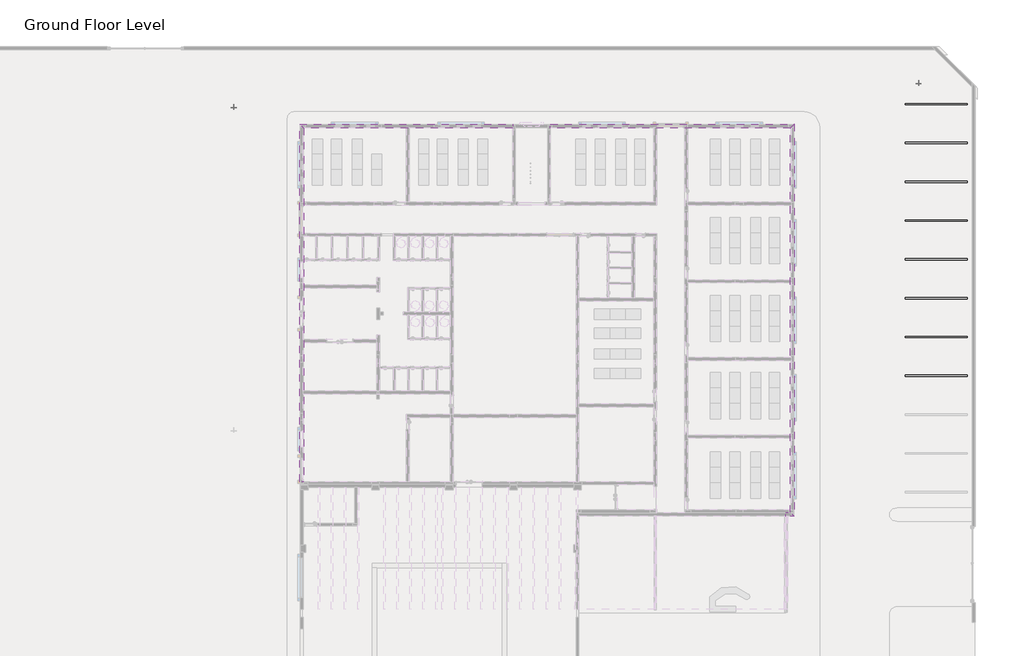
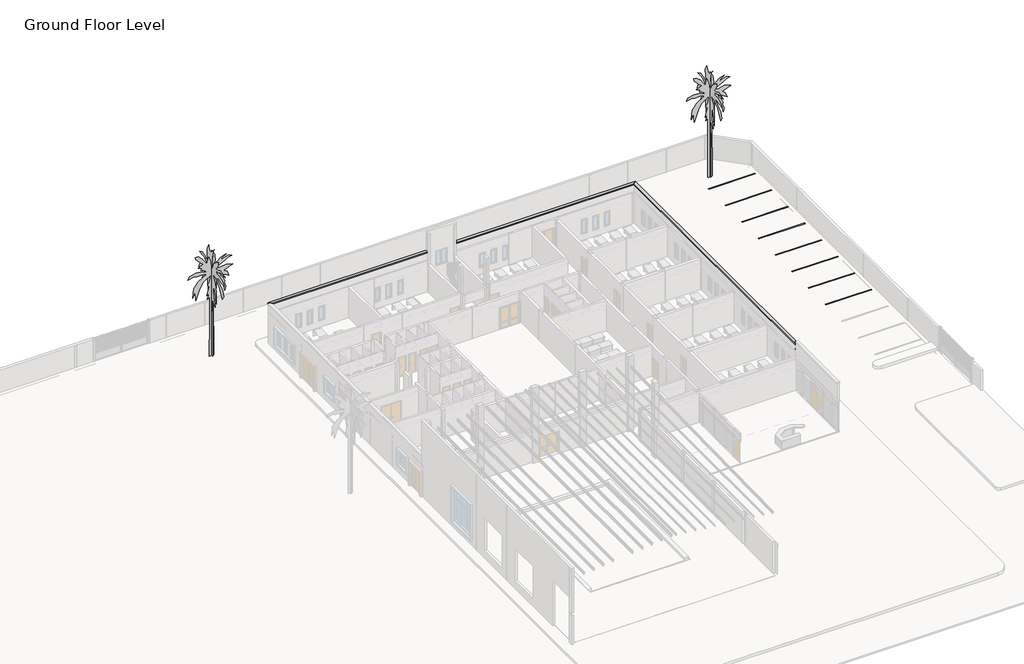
# One storey, part 23 of 23: 21 proxies.
"""IFC4 building model written with IfcOpenShell, lengths in millimetres."""

import ifcopenshell
import ifcopenshell.guid

model = None  # the IFC model being written
_history = None  # IfcOwnerHistory: only IFC2X3 demands one
_inside = {}  # id of a spatial element -> (the spatial element, [elements in it])
_under = {}  # id of a project, library or spatial element -> (it, [spatial elements below it])
_declared = {}  # id of a project -> (the project, [libraries it declares])
_typed = {}  # id of a type object -> (the type object, [elements of that type])
_made_of = {}  # id of a material, layer set ... -> (it, [elements and type objects made of it])


def new_model(schema):
    """Start an empty IFC model of exactly this schema.

    Asked for "IFC4X3", IfcOpenShell would pick the latest addendum, in which some entities
    have other attributes; the version numbers below select the first issue.
    IFC2X3 requires an IfcOwnerHistory on every rooted entity: one is made here for all.
    """
    global model, _history
    if schema == "IFC4X3":
        model = ifcopenshell.file(schema_version=(4, 3, 0, 0))
    else:
        model = ifcopenshell.file(schema=schema)
    _inside.clear()
    _under.clear()
    _declared.clear()
    _typed.clear()
    _made_of.clear()
    _history = None
    if model.schema == "IFC2X3":
        org = make("IfcOrganization", Name="unknown")
        user = make(
            "IfcPersonAndOrganization",
            ThePerson=make("IfcPerson", FamilyName="unknown"),
            TheOrganization=org,
        )
        app = make(
            "IfcApplication",
            ApplicationDeveloper=org,
            Version="unknown",
            ApplicationFullName="unknown",
            ApplicationIdentifier="unknown",
        )
        _history = make(
            "IfcOwnerHistory",
            OwningUser=user,
            OwningApplication=app,
            ChangeAction="ADDED",
            CreationDate=0,
        )
    return model


def make(cls, **values):
    """One entity of the class cls with the attributes given. An attribute that is None is left unset."""
    return model.create_entity(
        cls, **{name: value for name, value in values.items() if value is not None}
    )


def rooted(cls, **values):
    """An entity with a GlobalId (a new one), such as an element, a storey or a relation."""
    return make(cls, GlobalId=ifcopenshell.guid.new(), OwnerHistory=_history, **values)


def si_unit(unit_type, name, prefix=None):
    """IfcSIUnit, for example si_unit("LENGTHUNIT", "METRE", prefix="MILLI")."""
    return make("IfcSIUnit", UnitType=unit_type, Prefix=prefix, Name=name)


def assignment(units):
    """IfcUnitAssignment: the units of a project."""
    return None if units is None else make("IfcUnitAssignment", Units=units)


def point(xyz):
    """IfcCartesianPoint."""
    return None if xyz is None else make("IfcCartesianPoint", Coordinates=xyz)


def direction(xyz):
    """IfcDirection."""
    return None if xyz is None else make("IfcDirection", DirectionRatios=xyz)


def frame(location, z_axis=None, x_axis=None):
    """IfcAxis2Placement3D, a coordinate frame: its origin and axes. An axis left out is left unset."""
    return make(
        "IfcAxis2Placement3D",
        Location=point(location),
        Axis=direction(z_axis),
        RefDirection=direction(x_axis),
    )


def origin():
    """The frame at (0, 0, 0) with its axes left unset."""
    return frame((0.0, 0.0, 0.0))


def origin_with_axes():
    """The frame at (0, 0, 0) with the z axis (0, 0, 1) and the x axis (1, 0, 0) written out."""
    return frame((0.0, 0.0, 0.0), z_axis=(0.0, 0.0, 1.0), x_axis=(1.0, 0.0, 0.0))


def place(relative_to, where):
    """IfcLocalPlacement: puts the frame where relative to a parent placement (None: the world)."""
    return make(
        "IfcLocalPlacement", PlacementRelTo=relative_to, RelativePlacement=where
    )


def context(
    kind, dimensions, precision=None, world=None, true_north=None, identifier=None
):
    """IfcGeometricRepresentationContext, for example the 3D "Model" context."""
    return make(
        "IfcGeometricRepresentationContext",
        ContextIdentifier=identifier,
        ContextType=kind,
        CoordinateSpaceDimension=dimensions,
        Precision=precision,
        WorldCoordinateSystem=world,
        TrueNorth=true_north,
    )


def project(units=None, contexts=None):
    """IfcProject with its units and contexts."""
    return rooted(
        "IfcProject",
        Name="project",
        RepresentationContexts=contexts,
        UnitsInContext=assignment(units),
    )


def spatial(cls, under=None, at=None, **own):
    """A site, building, storey or space (cls), placed at a placement, below another one or the project."""
    s = rooted(cls, ObjectPlacement=at, **own)
    if under is not None:
        _under.setdefault(under.id(), (under, []))[1].append(s)
    return s


def polyline(points):
    """IfcPolyline through the points."""
    return make("IfcPolyline", Points=[point(p) for p in points])


def point_list(points):
    """IfcCartesianPointList2D or 3D."""
    cls = (
        "IfcCartesianPointList2D" if len(points[0]) == 2 else "IfcCartesianPointList3D"
    )
    return make(cls, CoordList=points)


def outline(outer, holes=None, kind="AREA"):
    """IfcArbitraryClosedProfileDef: a profile drawn as a closed curve; with holes, ...WithVoids."""
    if holes is None:
        return make("IfcArbitraryClosedProfileDef", ProfileType=kind, OuterCurve=outer)
    return make(
        "IfcArbitraryProfileDefWithVoids",
        ProfileType=kind,
        OuterCurve=outer,
        InnerCurves=holes,
    )


def extrude(swept, where, along, depth):
    """IfcExtrudedAreaSolid: the profile swept, set in the frame where, extruded along a direction by depth."""
    return make(
        "IfcExtrudedAreaSolid",
        SweptArea=swept,
        Position=where,
        ExtrudedDirection=direction(along),
        Depth=depth,
    )


def triangles(points, corners, closed=None, point_numbers=None):
    """IfcTriangulatedFaceSet: each triangle names its three corners, points numbered from 1."""
    return make(
        "IfcTriangulatedFaceSet",
        Coordinates=point_list(points),
        Closed=closed,
        CoordIndex=corners,
        PnIndex=point_numbers,
    )


def shape(context_of_items, identifier, shape_type, items):
    """IfcShapeRepresentation: the items that make up one representation, for example the "Body"."""
    return make(
        "IfcShapeRepresentation",
        ContextOfItems=context_of_items,
        RepresentationIdentifier=identifier,
        RepresentationType=shape_type,
        Items=items,
    )


def source(mapping_origin, context_of_items, identifier, shape_type, items):
    """IfcRepresentationMap: a shape defined once, which mapped items show again and again."""
    return make(
        "IfcRepresentationMap",
        MappingOrigin=mapping_origin,
        MappedRepresentation=shape(context_of_items, identifier, shape_type, items),
    )


def transform(
    local_origin,
    x_axis=None,
    y_axis=None,
    z_axis=None,
    scale=None,
    scale2=None,
    scale3=None,
    uniform=True,
):
    """IfcCartesianTransformationOperator3D, or its non-uniform kind. x_axis, y_axis, z_axis: its Axis1, 2, 3."""
    if uniform:
        return make(
            "IfcCartesianTransformationOperator3D",
            Axis1=direction(x_axis),
            Axis2=direction(y_axis),
            LocalOrigin=point(local_origin),
            Scale=scale,
            Axis3=direction(z_axis),
        )
    return make(
        "IfcCartesianTransformationOperator3DnonUniform",
        Axis1=direction(x_axis),
        Axis2=direction(y_axis),
        LocalOrigin=point(local_origin),
        Scale=scale,
        Axis3=direction(z_axis),
        Scale2=scale2,
        Scale3=scale3,
    )


def mapped(mapping_source, mapping_target):
    """IfcMappedItem: shows the shape of a source again, moved by a transform."""
    return make(
        "IfcMappedItem", MappingSource=mapping_source, MappingTarget=mapping_target
    )


def made_of(thing, what):
    """Note that an element or type object is made of a material, layer set ...; save() writes the relation."""
    if what is not None:
        _made_of.setdefault(what.id(), (what, []))[1].append(thing)
    return thing


def element(
    cls,
    number,
    at=None,
    inside=None,
    cuts=None,
    type_object=None,
    material=None,
    context=None,
    identifier="Body",
    shape_type=None,
    held_by="IfcProductDefinitionShape",
    body=None,
    shapes=None,
    **own,
):
    """One element of the class cls, such as IfcWall. Its Tag is "e" and its number.

    at: its placement. inside: the storey or other place that contains it. cuts: it is an
    opening in that element (IfcRelVoidsElement). A single representation is given by context,
    identifier, shape_type and body (its items); several are given by shapes. held_by: the class
    of the entity that holds the representations. save() writes the other relations.
    """
    e = rooted(cls, Tag="e%d" % number, ObjectPlacement=at, **own)
    if body is not None:
        shapes = [shape(context, identifier, shape_type, body)]
    if shapes is not None:
        e.Representation = make(held_by, Representations=shapes)
    if inside is not None:
        _inside.setdefault(inside.id(), (inside, []))[1].append(e)
    if cuts is not None:
        rooted(
            "IfcRelVoidsElement", RelatingBuildingElement=cuts, RelatedOpeningElement=e
        )
    if type_object is not None:
        _typed.setdefault(type_object.id(), (type_object, []))[1].append(e)
    return made_of(e, material)


def aggregate(whole, parts):
    """IfcRelAggregates: a whole, such as a stair, and the parts it consists of."""
    return rooted("IfcRelAggregates", RelatingObject=whole, RelatedObjects=parts)


def save(model, path):
    """Write the relations noted so far, then the file.

    IfcRelAggregates (storeys below a building ...), IfcRelContainedInSpatialStructure (elements
    in a storey), IfcRelDefinesByType, IfcRelAssociatesMaterial and IfcRelDeclares: one each for
    every whole, place, type object, material and project.
    """
    for whole, parts in _under.values():
        aggregate(whole, parts)
    for where, things in _inside.values():
        rooted(
            "IfcRelContainedInSpatialStructure",
            RelatedElements=things,
            RelatingStructure=where,
        )
    for kind, things in _typed.values():
        rooted("IfcRelDefinesByType", RelatedObjects=things, RelatingType=kind)
    for what, things in _made_of.values():
        rooted("IfcRelAssociatesMaterial", RelatedObjects=things, RelatingMaterial=what)
    for by, libraries in _declared.values():
        rooted("IfcRelDeclares", RelatingContext=by, RelatedDefinitions=libraries)
    model.write(path)


def m_parking_space_4800_x_2400mm_90_deg_2b7ae786(model_context):
    return source(origin(), model_context, "Body", "SweptSolid", [
        extrude(outline(polyline([(-50.8, 0.0), (50.8, 0.0), (50.8, -4800.0), (-50.8, -4800.0), (-50.8, 0.0)])), origin_with_axes(), (0.0, 0.0, 1.0), 3.175),
    ])


def m_rpc_plants_cuban_royal_palm_0febebf2(model_context):
    return source(origin(), model_context, "Body", "Tessellation", [
        triangles([(-85.641911, -0.0275448, 0.0014862), (-236.2865584, -0.0275582, 0.0014928), (-206.1574018, -0.0282491, 3928.5799713), (-206.1570022, -0.0287286, 6610.0331589), (-447.1875661, -0.0286857, 6429.2738434), (-326.6736649, -0.028761, 6820.9534241), (-356.8016587, -0.028792, 7001.7133209), (-507.4475143, -0.0287531, 6820.9534241), (-326.6732652, -0.0288795, 7483.7926163), (-236.2861588, -0.028932, 7754.9522278), (-417.0595722, -0.0289672, 7995.9921661), (-176.0286268, -0.0290424, 8357.5119598), (-115.770686, -0.0291581, 8990.2308975), (-899.1230982, -0.0290269, 8447.9116745), (-1230.5388428, -0.0289101, 7875.472197), (-1652.346381, -0.0286815, 6700.4334549), (-1712.6022961, -0.0288621, 7724.8325546), (-1953.6340954, -0.0287384, 7092.1130356), (-1863.2502228, -0.0289201, 8086.351767), (-1381.1866241, -0.0290489, 8688.9516129), (-537.5754719, -0.0291774, 9201.1505814), (-929.2510557, -0.0291819, 9321.6705505), (-1561.9584389, -0.0291488, 9291.5107635), (-1833.1181957, -0.0291585, 9412.0307327), (-2465.8256516, -0.0291039, 9261.3910904), (-2285.0536915, -0.0291657, 9562.6703751), (-1652.346381, -0.0292203, 9713.3501312), (-959.3790133, -0.0292344, 9622.9504166), (-507.4475143, -0.0292165, 9412.0307327), (-597.8354201, -0.0292394, 9562.6703751), (-959.3790133, -0.0292667, 9803.7097321), (-1140.1548975, -0.0292696, 9863.9897736), (-989.5110403, -0.0293031, 10014.6305786), (-1411.3145817, -0.0293116, 10165.2702209), (-868.9951406, -0.0293838, 10436.4292511), (-1170.282855, -0.0294191, 10707.589444), (-1652.346381, -0.0294843, 11189.6693207), (-1682.4743385, -0.0295314, 11460.8283508), (-1411.3145817, -0.0295379, 11430.6685638), (-959.3790133, -0.0294876, 11038.9889832), (-718.3472866, -0.0294281, 10647.3094025), (-447.1875661, -0.0293861, 10346.0301178), (-447.1875661, -0.0294292, 10587.0700562), (-326.6732652, -0.0295099, 11008.8687286), (-115.770686, -0.0294275, 10496.6697601), (-25.3840156, -0.0293022, 9773.5906403), (125.2606773, -0.0294488, 10556.9498016), (155.3898429, -0.0295471, 11099.2690247), (4.7451552, -0.0296429, 11671.7085022), (306.0344813, -0.0295537, 11099.2690247), (396.4216241, -0.0294391, 10436.4292511), (125.2606773, -0.0293087, 9773.5906403), (577.1954372, -0.0294201, 10285.7896088), (968.8710211, -0.0294911, 10587.0700562), (1511.1904621, -0.0295417, 10737.7096985), (1119.5148783, -0.0294869, 10526.8295471), (968.8710211, -0.0294372, 10285.7896088), (1240.0307053, -0.0294706, 10406.3101593), (1752.2222614, -0.0295199, 10556.9498016), (2083.6420029, -0.0295075, 10406.3101593), (1691.9663464, -0.0294688, 10285.7896088), (1420.8065895, -0.0294247, 10104.9901794), (547.0674434, -0.029311, 9683.1903442), (727.8392944, -0.0292866, 9502.4304474), (968.8710211, -0.0293025, 9532.5507019), (1511.1904621, -0.0293424, 9622.9504166), (2174.0297997, -0.0293337, 9412.0307327), (1601.5784042, -0.0292709, 9201.1505814), (1270.1588081, -0.0292295, 9050.510939), (1601.5784042, -0.0292009, 8809.4710007), (1782.350219, -0.0291172, 8297.2720322), (1420.8065895, -0.0291445, 8538.3113892), (1209.9028204, -0.0291515, 8628.6715714), (968.8710211, -0.0291948, 8929.9909698), (968.8710211, -0.0291786, 8839.5912552), (818.2271639, -0.0291613, 8779.3513275), (1029.1270088, -0.0291489, 8658.8313583), (878.4831516, -0.0291316, 8598.5513168), (1179.7748629, -0.0290855, 8267.1517776), (1179.7748629, -0.0290693, 8176.752063), (1360.5466049, -0.0290179, 7845.3519424), (1300.2906898, -0.0289884, 7694.7123001), (1481.0625046, -0.0289047, 7182.5127502), (1360.5466049, -0.0288294, 6790.8331696), (1179.7748629, -0.0289777, 7664.5525131), (1029.1270088, -0.0290519, 8116.5121353), (757.967252, -0.0291209, 8568.4316437), (486.8075315, -0.0291306, 8688.9516129), (456.6795376, -0.0290215, 8086.351767), (456.6795376, -0.028903, 7423.5526886), (306.0344813, -0.0287671, 6700.4334549), (185.518618, -0.0287349, 6549.7932312), (215.6473931, -0.0275672, 0.001473), (-0.0058394, 141.1002628, 0.0007795), (-0.00584, 257.690539, 0.0008003), (-0.0058394, 257.690539, 2876.8171349), (-0.0058362, 228.5433719, 6753.4331268), (-0.0058387, 345.1328579, 6578.553685), (-0.0058357, 636.6073631, 5966.4340714), (-0.005838, 636.6073631, 6695.1535446), (-0.0058375, 724.0512989, 7919.3520767), (-0.0058398, 607.4593966, 8764.6312958), (-0.0058411, 840.639168, 8502.2717285), (-0.0058374, 1248.7067745, 7656.9925095), (-0.0058368, 1715.0662445, 7074.0728577), (-0.0058401, 2064.8339939, 6520.2735214), (-0.005838, 1656.7703842, 7627.8721939), (-0.0058384, 1394.4426464, 8269.1115417), (-0.0058384, 811.4911652, 8852.0713074), (-0.0058409, 1073.818903, 8793.75103), (-0.0058383, 1423.5905766, 8764.6312958), (-0.0058388, 1744.21432, 8822.9114594), (-0.0058387, 2298.0177258, 8531.4315765), (-0.0058405, 2006.5420578, 9172.6709244), (-0.0058374, 1685.9183144, 9172.6709244), (-0.0058379, 1569.3264484, 9668.1906784), (-0.0058388, 1015.5269669, 9551.5902374), (-0.0058407, 665.7553659, 9726.4702606), (-0.005841, 1248.7067745, 10047.1099915), (-0.005836, 1015.5269669, 10134.5500031), (-0.0058396, 1656.7703842, 10192.8301666), (-0.0058369, 2181.4258598, 10251.1498627), (-0.0058382, 1656.7703842, 10484.3100494), (-0.0058385, 1044.6749697, 10309.4300262), (-0.0058413, 549.1634637, 9959.6699799), (-0.0058378, 782.3472319, 10717.5097687), (-0.0058376, 840.639168, 11446.1885468), (-0.0058388, 549.1634637, 11970.8286163), (-0.0058376, 490.8715276, 11795.9485931), (-0.0058377, 345.1328579, 11417.0286987), (-0.0058404, -4.6371153, 11446.1885468), (-0.0058366, -470.9955242, 11999.9884644), (-0.0058391, -266.9649366, 11737.6684296), (-0.00584, -92.0795086, 10892.3886292), (-0.0058401, -121.2270754, 10396.8700378), (-0.005841, 24.5103362, 9580.7506668), (-0.0058359, -179.5226177, 9901.3502838), (-0.0058402, -383.5548223, 10396.8700378), (-0.0058402, -733.323262, 10746.6289215), (-0.0058409, -1228.8308075, 11096.4285004), (-0.005841, -1228.8308075, 10834.0689331), (-0.0058398, -1083.0949356, 10455.1897339), (-0.0058411, -733.323262, 10076.2698395), (-0.0058368, -1053.9469328, 10105.390155), (-0.0058412, -1549.4544056, 10367.7101898), (-0.0058385, -2423.8815548, 10134.5500031), (-0.0058395, -1666.0464169, 10134.5500031), (-0.0058381, -1170.5388714, 9930.5101318), (-0.0058399, -733.323262, 9843.0701202), (-0.0058387, -879.0631308, 9755.6301086), (-0.0058394, -879.0631308, 9609.9105148), (-0.0058389, -1316.2747433, 9668.1906784), (-0.0058379, -1870.078149, 9464.1508072), (-0.0058369, -2248.9938286, 9085.2309128), (-0.0058405, -1811.7821434, 9085.2309128), (-0.0058371, -1257.9787376, 9260.110936), (-0.0058396, -937.3590637, 9143.5511902), (-0.0058376, -1957.5220848, 8385.7114014), (-0.0058379, -2161.553817, 7802.7522171), (-0.0058373, -1899.2260792, 7423.8329041), (-0.005838, -1403.718679, 8473.151413), (-0.0058376, -704.1793287, 9085.2309128), (-0.0058362, -179.5226177, 9114.3907608), (-0.0058372, -645.8833231, 8385.7114014), (-0.0058376, -791.619195, 7482.1124863), (-0.0058411, -791.619195, 6228.7936386), (-0.0058377, -704.1793287, 6870.0329865), (-0.0058394, -616.735393, 7394.6724747), (-0.0058398, -383.5548223, 7802.7522171), (-0.0058386, -325.2596887, 7511.2723343), (-0.005837, -354.4072555, 6665.9931152), (-0.0058412, -616.735393, 5791.5540482), (-0.0058392, -354.4072555, 5966.4340714), (-0.0058402, -92.0795086, 6461.9538254), (-0.0058368, -150.3750509, 3605.5043427), (-0.0058407, -150.3750509, 0.0007273), (-2603.3012718, -77.3687241, 0.0008542), (-2534.665345, -672.243342, 0.0007448), (-2339.1937008, -1218.5427727, 0.0006386), (-2032.5380001, -1700.614365, 0.000539), (-1630.3503399, -2102.8018799, 0.0004495), (-1148.2788929, -2409.4575806, 0.0003736), (-601.9833864, -2604.9293701, 0.0003147), (-7.105793, -2673.5652969, 0.0002765), (587.7714269, -2604.9293701, 0.0002627), (1134.066897, -2409.4575806, 0.0002738), (1616.1384167, -2102.8018799, 0.0003076), (2018.3259315, -1700.614365, 0.0003619), (2324.9816322, -1218.5427727, 0.0004347), (2520.4534218, -672.243342, 0.0005238), (2589.0893486, -77.3687241, 0.0006272), (-7.1062727, 2518.8256142, 0.0004767)], [[54, 55, 56], [48, 49, 50], [17, 18, 19], [15, 16, 17], [7, 8, 9], [83, 84, 85], [82, 83, 85], [4, 5, 6], [70, 71, 72], [66, 67, 68], [43, 44, 45], [59, 60, 61], [24, 25, 26], [24, 26, 27], [33, 34, 35], [76, 77, 78], [58, 59, 61], [58, 61, 62], [31, 32, 33], [42, 43, 45], [42, 45, 46], [37, 38, 39], [54, 56, 57], [53, 54, 57], [23, 24, 27], [23, 27, 28], [22, 23, 28], [22, 28, 29], [21, 22, 29], [58, 62, 63], [57, 58, 63], [53, 57, 63], [52, 53, 63], [36, 37, 39], [36, 39, 40], [36, 40, 41], [35, 36, 41], [35, 41, 42], [69, 70, 72], [69, 72, 73], [69, 73, 74], [65, 66, 68], [65, 68, 69], [65, 69, 74], [64, 65, 74], [47, 48, 50], [47, 50, 51], [46, 47, 51], [46, 51, 52], [33, 35, 42], [82, 85, 86], [81, 82, 86], [80, 81, 86], [33, 42, 46], [31, 33, 46], [30, 31, 46], [29, 30, 46], [15, 17, 19], [15, 19, 20], [14, 15, 20], [14, 20, 21], [13, 14, 21], [92, 93, 1], [92, 1, 2], [92, 2, 3], [92, 3, 4], [80, 86, 87], [79, 80, 87], [78, 79, 87], [76, 78, 87], [76, 87, 88], [13, 21, 29], [13, 29, 46], [13, 46, 52], [13, 52, 63], [13, 63, 64], [13, 64, 74], [13, 74, 75], [13, 75, 76], [13, 76, 88], [12, 13, 88], [12, 88, 89], [11, 12, 89], [10, 11, 89], [10, 89, 90], [9, 10, 90], [9, 90, 91], [7, 9, 91], [6, 7, 91], [4, 6, 91], [92, 4, 91], [131, 132, 133], [165, 166, 167], [105, 106, 107], [145, 146, 147], [165, 167, 168], [98, 99, 100], [131, 133, 134], [121, 122, 123], [104, 105, 107], [112, 113, 114], [171, 172, 173], [171, 173, 174], [153, 154, 155], [127, 128, 129], [118, 119, 120], [112, 114, 115], [139, 140, 141], [139, 141, 142], [159, 160, 161], [158, 159, 161], [157, 158, 161], [157, 161, 162], [104, 107, 108], [103, 104, 108], [103, 108, 109], [102, 103, 109], [127, 129, 130], [121, 123, 124], [120, 121, 124], [120, 124, 125], [118, 120, 125], [153, 155, 156], [152, 153, 156], [151, 152, 156], [151, 156, 157], [126, 127, 130], [145, 147, 148], [144, 145, 148], [144, 148, 149], [143, 144, 149], [139, 142, 143], [138, 139, 143], [137, 138, 143], [137, 143, 149], [175, 176, 94], [175, 94, 95], [175, 95, 96], [175, 96, 97], [174, 175, 97], [111, 112, 115], [115, 116, 117], [111, 115, 117], [110, 111, 117], [109, 110, 117], [165, 168, 169], [164, 165, 169], [130, 131, 134], [126, 130, 134], [126, 134, 135], [125, 126, 135], [125, 135, 136], [118, 125, 136], [151, 157, 162], [171, 174, 97], [170, 171, 97], [109, 117, 118], [109, 118, 136], [102, 109, 136], [97, 98, 100], [97, 100, 101], [170, 97, 101], [169, 170, 101], [169, 101, 102], [164, 169, 102], [163, 164, 102], [163, 102, 136], [151, 162, 163], [151, 163, 136], [151, 136, 137], [151, 137, 149], [151, 149, 150], [191, 192, 177], [190, 191, 177], [190, 177, 178], [189, 190, 178], [189, 178, 179], [189, 179, 180], [188, 189, 180], [187, 188, 180], [187, 180, 181], [187, 181, 182], [187, 182, 183], [187, 183, 184], [187, 184, 185], [187, 185, 186]], closed=False),
    ])


model = new_model("IFC4")

# Units and contexts
model_context = context("Model", 3, world=origin())
ifc_project = project(units=[si_unit("LENGTHUNIT", "METRE", prefix="MILLI")], contexts=[model_context])

# Site, building, storey
site = spatial("IfcSite", under=ifc_project)
building = spatial("IfcBuilding", under=site)
storey = spatial("IfcBuildingStorey", under=building, Name="Ground Floor Level", Elevation=900.0)

# Proxies
placement = place(None, origin())
element("IfcBuildingElementProxy", 1, Name="Cornice", ObjectType="Cornice", at=placement, inside=storey, context=model_context, shape_type="SweptSolid", body=[
    extrude(outline(polyline([(15452.7672395, -8604.7846466), (15452.7672395, -8304.7846466), (15802.7672395, -8304.7846466), (16102.7672395, -8604.7846466), (15452.7672395, -8604.7846466)])), frame((0.0, 0.0, 5302.8002678), z_axis=(0.0, 0.0, 1.0), x_axis=(1.0, 0.0, 0.0)), (0.0, 0.0, 1.0), 100.0),
    extrude(outline(polyline([(15802.7672395, 21395.2153534), (16102.7672395, 21695.2153534), (16102.7672395, -8604.7846466), (15802.7672395, -8304.7846466), (15802.7672395, 21395.2153534)])), frame((0.0, 0.0, 5302.8002678), z_axis=(0.0, 0.0, 1.0), x_axis=(1.0, 0.0, 0.0)), (0.0, 0.0, 1.0), 100.0),
])
element("IfcBuildingElementProxy", 2, Name="Cornice", ObjectType="Cornice", at=placement, inside=storey, context=model_context, shape_type="SweptSolid", body=[
    extrude(outline(polyline([(15802.7672395, 21395.2153534), (16102.7672395, 21695.2153534), (16102.7672395, -8604.7846466), (15802.7672395, -8304.7846466), (15802.7672395, 21395.2153534)])), frame((0.0, 0.0, 5302.8002678), z_axis=(0.0, 0.0, 1.0), x_axis=(1.0, 0.0, 0.0)), (0.0, 0.0, 1.0), 100.0),
])
element("IfcBuildingElementProxy", 3, Name="Cornice", ObjectType="Cornice", at=placement, inside=storey, context=model_context, shape_type="SweptSolid", body=[
    extrude(outline(polyline([(15802.7672395, 21395.2153534), (16102.7672395, 21695.2153534), (16102.7672395, -8604.7846466), (15802.7672395, -8304.7846466), (15802.7672395, 21395.2153534)])), frame((0.0, 0.0, 5302.8002678), z_axis=(0.0, 0.0, 1.0), x_axis=(1.0, 0.0, 0.0)), (0.0, 0.0, 1.0), 100.0),
])
element("IfcBuildingElementProxy", 4, Name="Cornice", ObjectType="Cornice", at=placement, inside=storey, context=model_context, shape_type="SweptSolid", body=[
    extrude(outline(polyline([(15802.7672395, 21395.2153534), (16102.7672395, 21695.2153534), (16102.7672395, -8604.7846466), (15802.7672395, -8304.7846466), (15802.7672395, 21395.2153534)])), frame((0.0, 0.0, 5302.8002678), z_axis=(0.0, 0.0, 1.0), x_axis=(1.0, 0.0, 0.0)), (0.0, 0.0, 1.0), 100.0),
])
element("IfcBuildingElementProxy", 5, Name="Cornice", ObjectType="Cornice", at=placement, inside=storey, context=model_context, shape_type="SweptSolid", body=[
    extrude(outline(polyline([(15802.7672395, 21395.2153534), (16102.7672395, 21695.2153534), (16102.7672395, -8604.7846466), (15802.7672395, -8304.7846466), (15802.7672395, 21395.2153534)])), frame((0.0, 0.0, 5302.8002678), z_axis=(0.0, 0.0, 1.0), x_axis=(1.0, 0.0, 0.0)), (0.0, 0.0, 1.0), 100.0),
])
element("IfcBuildingElementProxy", 6, Name="Cornice", ObjectType="Cornice", at=placement, inside=storey, context=model_context, shape_type="SweptSolid", body=[
    extrude(outline(polyline([(-2737.2327605, 21395.2153534), (-2737.2327605, 21695.2153534), (16102.7672395, 21695.2153534), (15802.7672395, 21395.2153534), (-2737.2327605, 21395.2153534)])), frame((0.0, 0.0, 5302.8002678), z_axis=(0.0, 0.0, 1.0), x_axis=(1.0, 0.0, 0.0)), (0.0, 0.0, 1.0), 100.0),
    extrude(outline(polyline([(15802.7672395, 21395.2153534), (16102.7672395, 21695.2153534), (16102.7672395, -8604.7846466), (15802.7672395, -8304.7846466), (15802.7672395, 21395.2153534)])), frame((0.0, 0.0, 5302.8002678), z_axis=(0.0, 0.0, 1.0), x_axis=(1.0, 0.0, 0.0)), (0.0, 0.0, 1.0), 100.0),
])
element("IfcBuildingElementProxy", 7, Name="Cornice", ObjectType="Cornice", at=placement, inside=storey, context=model_context, shape_type="SweptSolid", body=[
    extrude(outline(polyline([(-2737.2327605, 21395.2153534), (-2737.2327605, 21695.2153534), (16102.7672395, 21695.2153534), (15802.7672395, 21395.2153534), (-2737.2327605, 21395.2153534)])), frame((0.0, 0.0, 5302.8002678), z_axis=(0.0, 0.0, 1.0), x_axis=(1.0, 0.0, 0.0)), (0.0, 0.0, 1.0), 100.0),
])
element("IfcBuildingElementProxy", 8, Name="Cornice", ObjectType="Cornice", at=placement, inside=storey, context=model_context, shape_type="SweptSolid", body=[
    extrude(outline(polyline([(-2737.2327605, 21395.2153534), (-2737.2327605, 21695.2153534), (16102.7672395, 21695.2153534), (15802.7672395, 21395.2153534), (-2737.2327605, 21395.2153534)])), frame((0.0, 0.0, 5302.8002678), z_axis=(0.0, 0.0, 1.0), x_axis=(1.0, 0.0, 0.0)), (0.0, 0.0, 1.0), 100.0),
])
element("IfcBuildingElementProxy", 9, Name="Cornice", ObjectType="Cornice", at=placement, inside=storey, context=model_context, shape_type="SweptSolid", body=[
    extrude(outline(polyline([(-21797.2327605, 21395.2153534), (-22097.2327605, 21695.2153534), (-5657.2327605, 21695.2153534), (-5657.2327605, 21395.2153534), (-21797.2327605, 21395.2153534)])), frame((0.0, 0.0, 5302.8002678), z_axis=(0.0, 0.0, 1.0), x_axis=(1.0, 0.0, 0.0)), (0.0, 0.0, 1.0), 100.0),
])
element("IfcBuildingElementProxy", 10, Name="Cornice", ObjectType="Cornice", at=placement, inside=storey, context=model_context, shape_type="SweptSolid", body=[
    extrude(outline(polyline([(-21797.2327605, 21395.2153534), (-22097.2327605, 21695.2153534), (-5657.2327605, 21695.2153534), (-5657.2327605, 21395.2153534), (-21797.2327605, 21395.2153534)])), frame((0.0, 0.0, 5302.8002678), z_axis=(0.0, 0.0, 1.0), x_axis=(1.0, 0.0, 0.0)), (0.0, 0.0, 1.0), 100.0),
])
element("IfcBuildingElementProxy", 11, Name="Cornice", ObjectType="Cornice", at=placement, inside=storey, context=model_context, shape_type="SweptSolid", body=[
    extrude(outline(polyline([(-21797.2327605, 21395.2153534), (-22097.2327605, 21695.2153534), (-5657.2327605, 21695.2153534), (-5657.2327605, 21395.2153534), (-21797.2327605, 21395.2153534)])), frame((0.0, 0.0, 5302.8002678), z_axis=(0.0, 0.0, 1.0), x_axis=(1.0, 0.0, 0.0)), (0.0, 0.0, 1.0), 100.0),
    extrude(outline(polyline([(-21797.2327605, -5944.7846466), (-22097.2327605, -5944.7846466), (-22097.2327605, 21695.2153534), (-21797.2327605, 21395.2153534), (-21797.2327605, -5944.7846466)])), frame((0.0, 0.0, 5302.8002678), z_axis=(0.0, 0.0, 1.0), x_axis=(1.0, 0.0, 0.0)), (0.0, 0.0, 1.0), 100.0),
])
m_parking_space_4800_x_2400mm_90_deg_shape = m_parking_space_4800_x_2400mm_90_deg_2b7ae786(model_context)
element("IfcBuildingElementProxy", 12, Name="M_Parking Space : 4800 x 2400mm - 90 deg", ObjectType="M_Parking Space : 4800 x 2400mm - 90 deg", at=placement, inside=storey, context=model_context, shape_type="MappedRepresentation", body=[
    mapped(m_parking_space_4800_x_2400mm_90_deg_shape, transform((29462.7672395, 23245.2153532, 600.0), x_axis=(0.0, -1.0, 0.0), y_axis=(1.0, 0.0, 0.0), z_axis=(0.0, 0.0, 1.0))),
])
element("IfcBuildingElementProxy", 13, Name="M_Parking Space : 4800 x 2400mm - 90 deg", ObjectType="M_Parking Space : 4800 x 2400mm - 90 deg", at=placement, inside=storey, context=model_context, shape_type="MappedRepresentation", body=[
    mapped(m_parking_space_4800_x_2400mm_90_deg_shape, transform((29462.7672395, 20245.2153532, 600.0), x_axis=(0.0, -1.0, 0.0), y_axis=(1.0, 0.0, 0.0), z_axis=(0.0, 0.0, 1.0))),
])
element("IfcBuildingElementProxy", 14, Name="M_Parking Space : 4800 x 2400mm - 90 deg", ObjectType="M_Parking Space : 4800 x 2400mm - 90 deg", at=placement, inside=storey, context=model_context, shape_type="MappedRepresentation", body=[
    mapped(m_parking_space_4800_x_2400mm_90_deg_shape, transform((29462.7672395, 17245.2153532, 600.0), x_axis=(0.0, -1.0, 0.0), y_axis=(1.0, 0.0, 0.0), z_axis=(0.0, 0.0, 1.0))),
])
element("IfcBuildingElementProxy", 15, Name="M_Parking Space : 4800 x 2400mm - 90 deg", ObjectType="M_Parking Space : 4800 x 2400mm - 90 deg", at=placement, inside=storey, context=model_context, shape_type="MappedRepresentation", body=[
    mapped(m_parking_space_4800_x_2400mm_90_deg_shape, transform((29462.7672395, 14245.2153532, 600.0), x_axis=(0.0, -1.0, 0.0), y_axis=(1.0, 0.0, 0.0), z_axis=(0.0, 0.0, 1.0))),
])
element("IfcBuildingElementProxy", 16, Name="M_Parking Space : 4800 x 2400mm - 90 deg", ObjectType="M_Parking Space : 4800 x 2400mm - 90 deg", at=placement, inside=storey, context=model_context, shape_type="MappedRepresentation", body=[
    mapped(m_parking_space_4800_x_2400mm_90_deg_shape, transform((29462.7672395, 11245.2153532, 600.0), x_axis=(0.0, -1.0, 0.0), y_axis=(1.0, 0.0, 0.0), z_axis=(0.0, 0.0, 1.0))),
])
element("IfcBuildingElementProxy", 17, Name="M_Parking Space : 4800 x 2400mm - 90 deg", ObjectType="M_Parking Space : 4800 x 2400mm - 90 deg", at=placement, inside=storey, context=model_context, shape_type="MappedRepresentation", body=[
    mapped(m_parking_space_4800_x_2400mm_90_deg_shape, transform((29462.7672395, 8245.2153532, 600.0), x_axis=(0.0, -1.0, 0.0), y_axis=(1.0, 0.0, 0.0), z_axis=(0.0, 0.0, 1.0))),
])
element("IfcBuildingElementProxy", 18, Name="M_Parking Space : 4800 x 2400mm - 90 deg", ObjectType="M_Parking Space : 4800 x 2400mm - 90 deg", at=placement, inside=storey, context=model_context, shape_type="MappedRepresentation", body=[
    mapped(m_parking_space_4800_x_2400mm_90_deg_shape, transform((29462.7672395, 5245.2153532, 600.0), x_axis=(0.0, -1.0, 0.0), y_axis=(1.0, 0.0, 0.0), z_axis=(0.0, 0.0, 1.0))),
])
element("IfcBuildingElementProxy", 19, Name="M_Parking Space : 4800 x 2400mm - 90 deg", ObjectType="M_Parking Space : 4800 x 2400mm - 90 deg", at=placement, inside=storey, context=model_context, shape_type="MappedRepresentation", body=[
    mapped(m_parking_space_4800_x_2400mm_90_deg_shape, transform((29462.7672395, 2245.2153532, 600.0), x_axis=(0.0, -1.0, 0.0), y_axis=(1.0, 0.0, 0.0), z_axis=(0.0, 0.0, 1.0))),
])
m_rpc_plants_cuban_royal_palm_shape = m_rpc_plants_cuban_royal_palm_0febebf2(model_context)
element("IfcBuildingElementProxy", 20, Name="M_RPC Plants : Cuban Royal Palm", ObjectType="M_RPC Plants : Cuban Royal Palm", at=placement, inside=storey, context=model_context, shape_type="MappedRepresentation", body=[
    mapped(m_rpc_plants_cuban_royal_palm_shape, transform((-27196.8558395, 22982.9293128, 500.0), x_axis=(1.0, 0.0, 0.0), y_axis=(0.0, 1.0, 0.0), z_axis=(0.0, 0.0, 1.0))),
])
element("IfcBuildingElementProxy", 21, Name="M_RPC Plants : Cuban Royal Palm", ObjectType="M_RPC Plants : Cuban Royal Palm", at=placement, inside=storey, context=model_context, shape_type="MappedRepresentation", body=[
    mapped(m_rpc_plants_cuban_royal_palm_shape, transform((25703.1441605, 24830.2380189, 500.0), x_axis=(1.0, 0.0, 0.0), y_axis=(0.0, 1.0, 0.0), z_axis=(0.0, 0.0, 1.0))),
])

save(model, "model.ifc")
